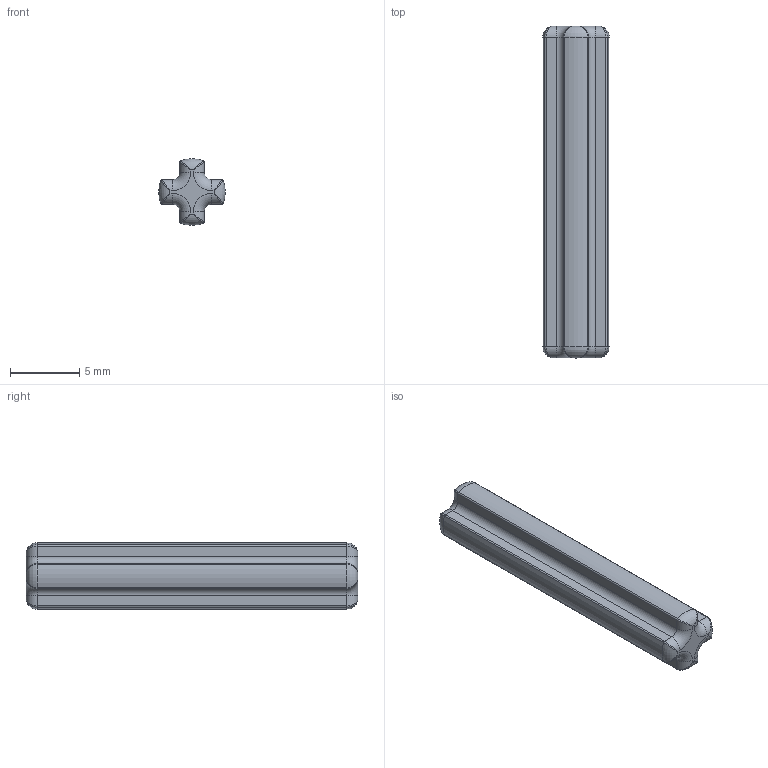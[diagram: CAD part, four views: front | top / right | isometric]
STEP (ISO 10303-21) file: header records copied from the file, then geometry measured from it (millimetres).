
FILE_DESCRIPTION(/* description */ ('Unknown'),/* implementation_level */ '2;1');
FILE_NAME(/* name */ 'ClGray_4211815_JCA',/* time_stamp */ '2025-07-21T23:53:48+02:00',/* author */ ('Unknown'),/* organization */ ('Unknown'),/* preprocessor_version */ 'ST-DEVELOPER v19.4',/* originating_system */ 'Solid Edge',/* authorisation */ 'Unknown');
FILE_SCHEMA (('AUTOMOTIVE_DESIGN {1 0 10303 214 3 1 1}'));
Length unit declared in the file: millimetre
Products named in the file (1): ClGray_4211815_JCA
Bounding box: 4.79 x 24 x 4.79 mm (x, y, z)
Volume: 327.7 mm3; surface area: 422.9 mm2
Topology: 1 solids, 1 shells, 74 faces, 168 edges, 80 vertices
Faces by surface type: cylinder 32, torus 16, bspline 16, plane 10
Entity records: 2142 total; most frequent: CARTESIAN_POINT 659, ORIENTED_EDGE 304, DIRECTION 302, EDGE_CURVE 152, AXIS2_PLACEMENT_3D 123, VERTEX_POINT 80, EDGE_LOOP 74, FACE_BOUND 74
